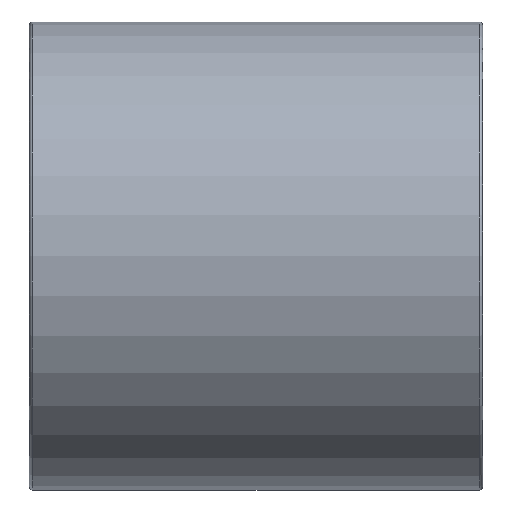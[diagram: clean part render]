
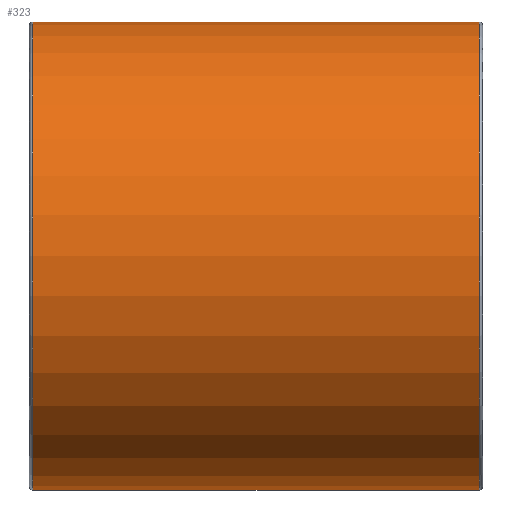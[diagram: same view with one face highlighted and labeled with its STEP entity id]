
A CAD part, top view. The second image highlights one B-rep face of the part: STEP entity #323.
In plain terms, the highlighted cylindrical face has radius 32 mm (diameter 64 mm), a partial arc.
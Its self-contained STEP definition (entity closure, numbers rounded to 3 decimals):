
#203=CARTESIAN_POINT('Vertex',(61.5,-32.,0.)) ;
#210=CARTESIAN_POINT('Vertex',(61.5,32.,0.)) ;
#230=CARTESIAN_POINT('Axis2P3D Location',(61.5,0.,0.)) ;
#251=CARTESIAN_POINT('Vertex',(0.5,32.,0.)) ;
#258=CARTESIAN_POINT('Vertex',(0.5,-32.,0.)) ;
#261=CARTESIAN_POINT('Axis2P3D Location',(0.5,0.,0.)) ;
#295=CARTESIAN_POINT('Line Origine',(31.,32.,0.)) ;
#300=CARTESIAN_POINT('Line Origine',(31.,-32.,0.)) ;
#312=CARTESIAN_POINT('Axis2P3D Location',(31.,0.,0.)) ;
#231=DIRECTION('Axis2P3D Direction',(1.,-0.,0.)) ;
#262=DIRECTION('Axis2P3D Direction',(1.,-0.,0.)) ;
#296=DIRECTION('Vector Direction',(1.,0.,0.)) ;
#301=DIRECTION('Vector Direction',(1.,0.,0.)) ;
#313=DIRECTION('Axis2P3D Direction',(1.,0.,0.)) ;
#314=DIRECTION('Axis2P3D XDirection',(0.,1.,0.)) ;
#232=AXIS2_PLACEMENT_3D('Circle Axis2P3D',#230,#231,$) ;
#263=AXIS2_PLACEMENT_3D('Circle Axis2P3D',#261,#262,$) ;
#315=AXIS2_PLACEMENT_3D('Cylinder Axis2P3D',#312,#313,#314) ;
#318=ORIENTED_EDGE('',*,*,#304,.T.) ;
#319=ORIENTED_EDGE('',*,*,#234,.F.) ;
#320=ORIENTED_EDGE('',*,*,#299,.F.) ;
#321=ORIENTED_EDGE('',*,*,#265,.T.) ;
#297=VECTOR('Line Direction',#296,1.) ;
#302=VECTOR('Line Direction',#301,1.) ;
#323=ADVANCED_FACE('STM45',(#322),#316,.T.) ;
#233=CIRCLE('generated circle',#232,32.) ;
#264=CIRCLE('generated circle',#263,32.) ;
#316=CYLINDRICAL_SURFACE('generated cylinder',#315,32.) ;
#234=EDGE_CURVE('',#211,#204,#233,.T.) ;
#265=EDGE_CURVE('',#252,#259,#264,.T.) ;
#299=EDGE_CURVE('',#252,#211,#298,.T.) ;
#304=EDGE_CURVE('',#259,#204,#303,.T.) ;
#317=EDGE_LOOP('',(#318,#319,#320,#321)) ;
#322=FACE_OUTER_BOUND('',#317,.T.) ;
#298=LINE('Line',#295,#297) ;
#303=LINE('Line',#300,#302) ;
#204=VERTEX_POINT('',#203) ;
#211=VERTEX_POINT('',#210) ;
#252=VERTEX_POINT('',#251) ;
#259=VERTEX_POINT('',#258) ;
